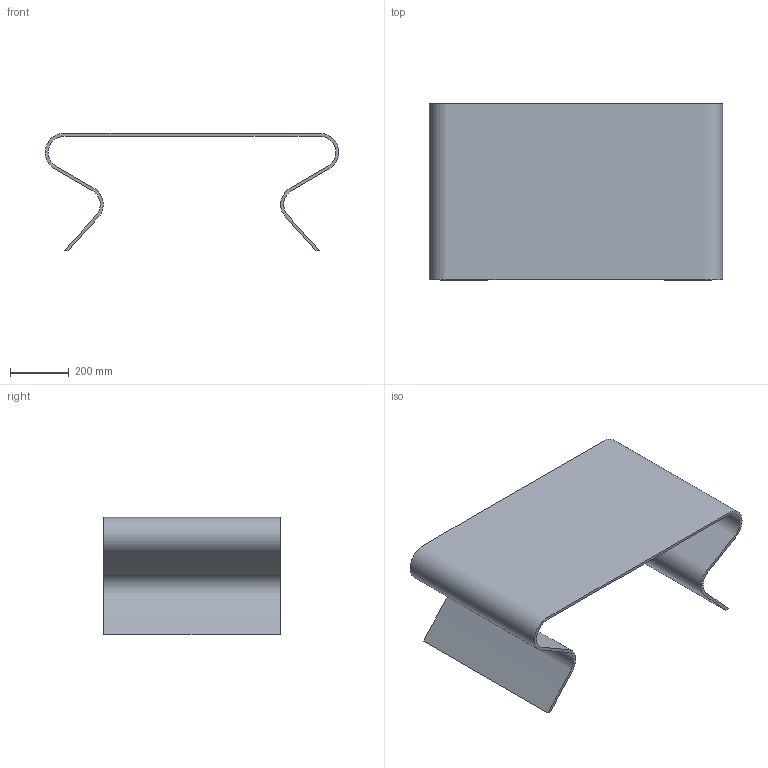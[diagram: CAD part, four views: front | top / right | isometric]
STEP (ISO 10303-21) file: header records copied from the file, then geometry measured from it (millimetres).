
FILE_DESCRIPTION(/* description */ (''),/* implementation_level */ '2;1');
FILE_NAME(/* name */ '1530 - Charlotte 100x60',/* time_stamp */ '2010-11-03T17:18:25+01:00',/* author */ (''),/* organization */ (''),/* preprocessor_version */ 'ST-DEVELOPER v10',/* originating_system */ '',/* authorisation */ '');
FILE_SCHEMA (('CONFIG_CONTROL_DESIGN'));
Length unit declared in the file: centimetre
Products named in the file (1): 1
Bounding box: 999.92 x 600 x 400 mm (x, y, z)
Volume: 16733533.7 mm3; surface area: 2467569.1 mm2
Topology: 1 solids, 1 shells, 6 faces, 12 edges, 8 vertices
Faces by surface type: plane 4, bspline 2
Entity records: 420 total; most frequent: CARTESIAN_POINT 246, ORIENTED_EDGE 24, EDGE_CURVE 12, VERTEX_POINT 8, B_SPLINE_CURVE_WITH_KNOTS 8, DIRECTION 8, ORGANIZATION 7, PERSON_AND_ORGANIZATION 7
